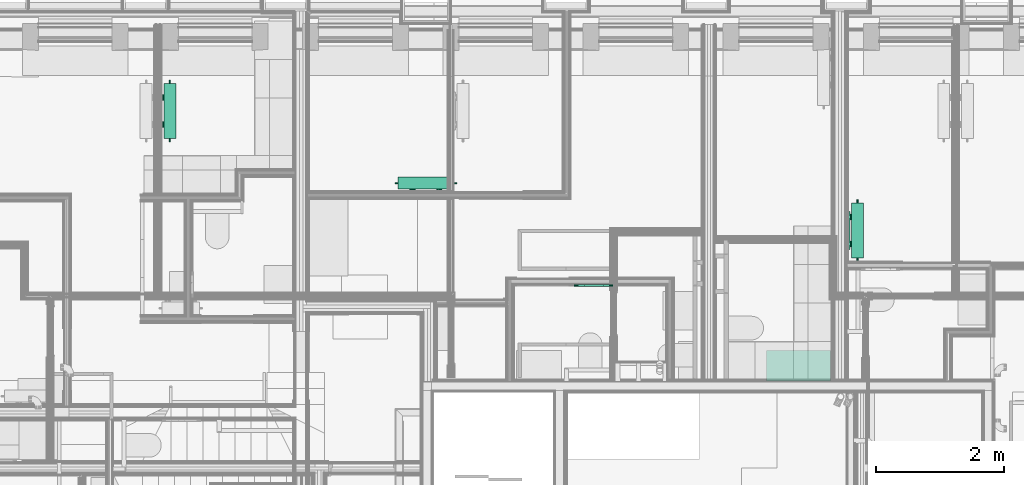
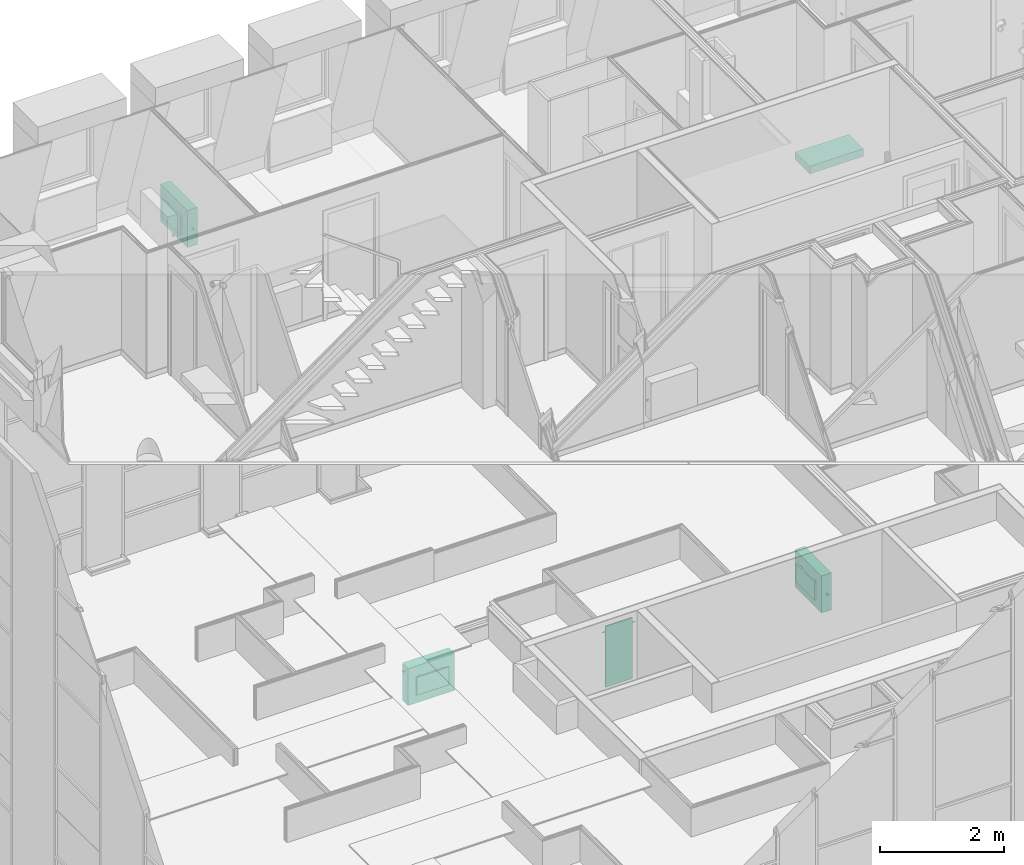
# One storey, part 148 of 169: 5 flow terminals.
"""IFC2X3 building model written with IfcOpenShell, lengths in metres."""

from ifc_helpers import new_model, entity, si_unit, converted_unit, derived_unit, money_unit, direction, frame, origin_with_axes, place, context, subcontext, project, spatial, open_shell, faceted_brep, surface_model, material, type_object, element, save


model = new_model("IFC2X3")

# Units and contexts
model_context = context("Model", 3, precision=1e-05, world=origin_with_axes(), true_north=direction((0.0, 1.0)))
body_context = subcontext(model_context, "Body", "Model", "MODEL_VIEW", scale=1.0)
ifc_project = project(units=[si_unit("LENGTHUNIT", "METRE"), si_unit("AREAUNIT", "SQUARE_METRE"), si_unit("VOLUMEUNIT", "CUBIC_METRE"), si_unit("ABSORBEDDOSEUNIT", "GRAY"), si_unit("AMOUNTOFSUBSTANCEUNIT", "MOLE"), si_unit("DOSEEQUIVALENTUNIT", "SIEVERT"), si_unit("ELECTRICCAPACITANCEUNIT", "FARAD"), si_unit("ELECTRICCHARGEUNIT", "COULOMB"), si_unit("ELECTRICCONDUCTANCEUNIT", "SIEMENS"), si_unit("ELECTRICCURRENTUNIT", "AMPERE"), si_unit("ELECTRICRESISTANCEUNIT", "OHM"), si_unit("ELECTRICVOLTAGEUNIT", "VOLT"), si_unit("ENERGYUNIT", "JOULE"), si_unit("FORCEUNIT", "NEWTON"), si_unit("FREQUENCYUNIT", "HERTZ"), si_unit("ILLUMINANCEUNIT", "LUX"), si_unit("INDUCTANCEUNIT", "HENRY"), si_unit("LUMINOUSFLUXUNIT", "LUMEN"), si_unit("LUMINOUSINTENSITYUNIT", "CANDELA"), si_unit("MAGNETICFLUXDENSITYUNIT", "TESLA"), si_unit("MAGNETICFLUXUNIT", "WEBER"), si_unit("MASSUNIT", "GRAM"), converted_unit("PLANEANGLEUNIT", "degree", entity("IfcReal", 0.0174532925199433), si_unit("PLANEANGLEUNIT", "RADIAN"), dimensions=[0, 0, 0, 0, 0, 0, 0]), si_unit("POWERUNIT", "WATT"), si_unit("PRESSUREUNIT", "PASCAL"), si_unit("RADIOACTIVITYUNIT", "BECQUEREL"), si_unit("SOLIDANGLEUNIT", "STERADIAN"), si_unit("THERMODYNAMICTEMPERATUREUNIT", "KELVIN"), si_unit("TIMEUNIT", "SECOND"), derived_unit("ACCELERATIONUNIT", [(si_unit("LENGTHUNIT", "METRE"), 1), (si_unit("TIMEUNIT", "SECOND"), -2)]), derived_unit("ANGULARVELOCITYUNIT", [(converted_unit("PLANEANGLEUNIT", "degree", entity("IfcReal", 0.0174532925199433), si_unit("PLANEANGLEUNIT", "RADIAN"), dimensions=[0, 0, 0, 0, 0, 0, 0]), 1), (si_unit("TIMEUNIT", "SECOND"), -1)]), derived_unit("CURVATUREUNIT", [(converted_unit("PLANEANGLEUNIT", "degree", entity("IfcReal", 0.0174532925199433), si_unit("PLANEANGLEUNIT", "RADIAN"), dimensions=[0, 0, 0, 0, 0, 0, 0]), 1), (si_unit("LENGTHUNIT", "METRE"), -1)]), derived_unit("DYNAMICVISCOSITYUNIT", [(si_unit("PRESSUREUNIT", "PASCAL"), 1), (si_unit("TIMEUNIT", "SECOND"), 1)]), derived_unit("HEATFLUXDENSITYUNIT", [(si_unit("POWERUNIT", "WATT"), 1), (si_unit("LENGTHUNIT", "METRE"), -2)]), derived_unit("HEATINGVALUEUNIT", [(si_unit("ENERGYUNIT", "JOULE"), 1), (si_unit("MASSUNIT", "GRAM"), -1)]), derived_unit("INTEGERCOUNTRATEUNIT", [(si_unit("TIMEUNIT", "SECOND"), -1)]), derived_unit("IONCONCENTRATIONUNIT", [(si_unit("MASSUNIT", "GRAM"), 1), (si_unit("VOLUMEUNIT", "CUBIC_METRE"), -1)]), derived_unit("ISOTHERMALMOISTURECAPACITYUNIT", [(si_unit("VOLUMEUNIT", "CUBIC_METRE"), 1), (si_unit("MASSUNIT", "GRAM"), -1)]), derived_unit("KINEMATICVISCOSITYUNIT", [(si_unit("AREAUNIT", "SQUARE_METRE"), 1), (si_unit("TIMEUNIT", "SECOND"), -1)]), derived_unit("LINEARFORCEUNIT", [(si_unit("FORCEUNIT", "NEWTON"), 1), (si_unit("LENGTHUNIT", "METRE"), -1)]), derived_unit("LINEARMOMENTUNIT", [(si_unit("FORCEUNIT", "NEWTON"), 1), (si_unit("LENGTHUNIT", "METRE"), -1)]), derived_unit("LINEARSTIFFNESSUNIT", [(si_unit("FORCEUNIT", "NEWTON"), 1), (si_unit("LENGTHUNIT", "METRE"), -1)]), derived_unit("LINEARVELOCITYUNIT", [(si_unit("LENGTHUNIT", "METRE"), 1), (si_unit("TIMEUNIT", "SECOND"), -1)]), derived_unit("LUMINOUSINTENSITYDISTRIBUTIONUNIT", [(si_unit("LUMINOUSINTENSITYUNIT", "CANDELA"), 1), (si_unit("LUMINOUSFLUXUNIT", "LUMEN"), -1)]), derived_unit("MASSDENSITYUNIT", [(si_unit("MASSUNIT", "GRAM"), 1), (si_unit("VOLUMEUNIT", "CUBIC_METRE"), -1)]), derived_unit("MASSFLOWRATEUNIT", [(si_unit("MASSUNIT", "GRAM"), 1), (si_unit("TIMEUNIT", "SECOND"), -1)]), derived_unit("MASSPERLENGTHUNIT", [(si_unit("MASSUNIT", "GRAM"), 1), (si_unit("LENGTHUNIT", "METRE"), -1)]), derived_unit("MODULUSOFELASTICITYUNIT", [(si_unit("FORCEUNIT", "NEWTON"), 1), (si_unit("AREAUNIT", "SQUARE_METRE"), -1)]), derived_unit("MODULUSOFLINEARSUBGRADEREACTIONUNIT", [(si_unit("FORCEUNIT", "NEWTON"), 1), (si_unit("LENGTHUNIT", "METRE"), -2)]), derived_unit("MODULUSOFROTATIONALSUBGRADEREACTIONUNIT", [(si_unit("FORCEUNIT", "NEWTON"), 1), (si_unit("LENGTHUNIT", "METRE"), 1)]), derived_unit("MODULUSOFSUBGRADEREACTIONUNIT", [(si_unit("FORCEUNIT", "NEWTON"), 1), (si_unit("VOLUMEUNIT", "CUBIC_METRE"), -1)]), derived_unit("MOISTUREDIFFUSIVITYUNIT", [(si_unit("VOLUMEUNIT", "CUBIC_METRE"), 1), (si_unit("TIMEUNIT", "SECOND"), -1)]), derived_unit("MOLECULARWEIGHTUNIT", [(si_unit("MASSUNIT", "GRAM"), 1), (si_unit("AMOUNTOFSUBSTANCEUNIT", "MOLE"), -1)]), derived_unit("PLANARFORCEUNIT", [(si_unit("FORCEUNIT", "NEWTON"), 1), (si_unit("LENGTHUNIT", "METRE"), -2)]), derived_unit("ROTATIONALFREQUENCYUNIT", [(si_unit("TIMEUNIT", "SECOND"), -1)]), derived_unit("ROTATIONALMASSUNIT", [(si_unit("MASSUNIT", "GRAM"), 1), (si_unit("LENGTHUNIT", "METRE"), 2)]), derived_unit("ROTATIONALSTIFFNESSUNIT", [(si_unit("FORCEUNIT", "NEWTON"), 1), (si_unit("LENGTHUNIT", "METRE"), 1), (converted_unit("PLANEANGLEUNIT", "degree", entity("IfcReal", 0.0174532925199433), si_unit("PLANEANGLEUNIT", "RADIAN"), dimensions=[0, 0, 0, 0, 0, 0, 0]), -1)]), derived_unit("SECTIONAREAINTEGRALUNIT", [(si_unit("LENGTHUNIT", "METRE"), 5)]), derived_unit("SECTIONMODULUSUNIT", [(si_unit("LENGTHUNIT", "METRE"), 3)]), derived_unit("SHEARMODULUSUNIT", [(si_unit("FORCEUNIT", "NEWTON"), 1), (si_unit("AREAUNIT", "SQUARE_METRE"), -1)]), derived_unit("SOUNDPOWERUNIT", [(si_unit("ENERGYUNIT", "JOULE"), 1), (si_unit("TIMEUNIT", "SECOND"), -1)]), derived_unit("SPECIFICHEATCAPACITYUNIT", [(si_unit("FORCEUNIT", "NEWTON"), 1), (si_unit("MASSUNIT", "GRAM"), -1), (si_unit("THERMODYNAMICTEMPERATUREUNIT", "KELVIN"), -1)]), derived_unit("TEMPERATUREGRADIENTUNIT", [(si_unit("THERMODYNAMICTEMPERATUREUNIT", "KELVIN"), 1), (si_unit("LENGTHUNIT", "METRE"), -1)]), derived_unit("THERMALADMITTANCEUNIT", [(si_unit("POWERUNIT", "WATT"), 1), (si_unit("AREAUNIT", "SQUARE_METRE"), -1), (si_unit("THERMODYNAMICTEMPERATUREUNIT", "KELVIN"), -1)]), derived_unit("THERMALCONDUCTANCEUNIT", [(si_unit("POWERUNIT", "WATT"), 1), (si_unit("LENGTHUNIT", "METRE"), -1), (si_unit("THERMODYNAMICTEMPERATUREUNIT", "KELVIN"), -1)]), derived_unit("THERMALEXPANSIONCOEFFICIENTUNIT", [(si_unit("THERMODYNAMICTEMPERATUREUNIT", "KELVIN"), -1)]), derived_unit("THERMALRESISTANCEUNIT", [(si_unit("AREAUNIT", "SQUARE_METRE"), 1), (si_unit("POWERUNIT", "WATT"), -1)]), derived_unit("THERMALTRANSMITTANCEUNIT", [(si_unit("POWERUNIT", "WATT"), 1), (si_unit("AREAUNIT", "SQUARE_METRE"), -1), (si_unit("THERMODYNAMICTEMPERATUREUNIT", "KELVIN"), -1)]), derived_unit("TORQUEUNIT", [(si_unit("FORCEUNIT", "NEWTON"), 1), (si_unit("LENGTHUNIT", "METRE"), 1)]), derived_unit("VAPORPERMEABILITYUNIT", [(si_unit("MASSUNIT", "GRAM"), 1), (si_unit("TIMEUNIT", "SECOND"), -1)]), derived_unit("VOLUMETRICFLOWRATEUNIT", [(si_unit("VOLUMEUNIT", "CUBIC_METRE"), 1), (si_unit("TIMEUNIT", "SECOND"), -1)]), derived_unit("WARPINGCONSTANTUNIT", [(si_unit("LENGTHUNIT", "METRE"), 6)]), derived_unit("WARPINGMOMENTUNIT", [(si_unit("FORCEUNIT", "NEWTON"), 1), (si_unit("LENGTHUNIT", "METRE"), 2)]), money_unit("GBP")], contexts=[model_context])

# Site, building, storey, space
site_placement = place(None, origin_with_axes())
site = spatial("IfcSite", under=ifc_project, at=site_placement, Name="Site", CompositionType="ELEMENT")
building_placement = place(site_placement, origin_with_axes())
building = spatial("IfcBuilding", under=site, at=building_placement, Name="Building01", CompositionType="ELEMENT")
storey_placement = place(building_placement, frame((0.0, 0.0, 5.15), z_axis=(0.0, 0.0, 1.0), x_axis=(1.0, 0.0, 0.0)))
storey = spatial("IfcBuildingStorey", under=building, at=storey_placement, Name="1F", CompositionType="ELEMENT", Elevation=5.15)
space_1_placement = place(storey_placement, frame((15.83, 8.82, 0.017975), z_axis=(0.0, 0.0, 1.0), x_axis=(0.0, -1.0, 0.0)))
space_1 = spatial("IfcSpace", under=storey, at=space_1_placement, Name="02", CompositionType="ELEMENT", InteriorOrExteriorSpace="NOTDEFINED")

# Flow terminal
ifc_material = material(Name="M_BSUK_Ventilation")
space_heater_type_1 = type_object("IfcSpaceHeaterType", Name="M-BmvRadiatorpanel-Panel", PredefinedType="NOTDEFINED")
flow_terminal_1_placement = place(storey_placement, frame((15.868382, 10.735286, 0.665), z_axis=(0.0, 0.0, 1.0), x_axis=(0.0, 1.0, 0.0)))
element("IfcFlowTerminal", 1, at=flow_terminal_1_placement, inside=space_1, type_object=space_heater_type_1, material=ifc_material, Name="M-BmvRadiatorpanel-Panel", ObjectType="M-BmvRadiatorpanel-Panel", context=body_context, shape_type="SurfaceModel", body=[
    surface_model("IfcShellBasedSurfaceModel", [(0.865, -0.0925, 0.365), (0.865, 0.0925, 0.365), (0.0, 0.0925, 0.365), (0.0, -0.0925, 0.365), (0.865, -0.0925, -0.365), (0.865, 0.0925, -0.365), (0.0, -0.0925, -0.365), (0.0, 0.0925, -0.365), (0.1325, 0.12025, 0.175), (0.7325, 0.12025, 0.175), (0.7325, 0.14525, 0.175), (0.1325, 0.14525, 0.175), (0.7325, 0.14525, -0.175), (0.1325, 0.14525, -0.175), (0.7325, 0.12025, -0.175), (0.1325, 0.12025, -0.175), (0.2225, 0.0925, 0.0775), (0.2225, 0.12025, 0.0775), (0.239721, 0.12025, 0.080925), (0.239721, 0.0925, 0.080925), (0.25432, 0.12025, 0.09068), (0.25432, 0.0925, 0.09068), (0.264075, 0.12025, 0.105279), (0.264075, 0.0925, 0.105279), (0.2675, 0.12025, 0.1225), (0.2675, 0.0925, 0.1225), (0.264075, 0.12025, 0.139721), (0.264075, 0.0925, 0.139721), (0.25432, 0.12025, 0.15432), (0.25432, 0.0925, 0.15432), (0.239721, 0.12025, 0.164075), (0.239721, 0.0925, 0.164075), (0.2225, 0.12025, 0.1675), (0.2225, 0.0925, 0.1675), (0.205279, 0.12025, 0.164075), (0.205279, 0.0925, 0.164075), (0.19068, 0.12025, 0.15432), (0.19068, 0.0925, 0.15432), (0.180925, 0.12025, 0.139721), (0.180925, 0.0925, 0.139721), (0.1775, 0.12025, 0.1225), (0.1775, 0.0925, 0.1225), (0.180925, 0.12025, 0.105279), (0.180925, 0.0925, 0.105279), (0.19068, 0.12025, 0.09068), (0.19068, 0.0925, 0.09068), (0.205279, 0.12025, 0.080925), (0.205279, 0.0925, 0.080925), (0.6425, 0.0925, 0.0775), (0.6425, 0.12025, 0.0775), (0.659721, 0.12025, 0.080925), (0.659721, 0.0925, 0.080925), (0.67432, 0.12025, 0.09068), (0.67432, 0.0925, 0.09068), (0.684075, 0.12025, 0.105279), (0.684075, 0.0925, 0.105279), (0.6875, 0.12025, 0.1225), (0.6875, 0.0925, 0.1225), (0.684075, 0.12025, 0.139721), (0.684075, 0.0925, 0.139721), (0.67432, 0.12025, 0.15432), (0.67432, 0.0925, 0.15432), (0.659721, 0.12025, 0.164075), (0.659721, 0.0925, 0.164075), (0.6425, 0.12025, 0.1675), (0.6425, 0.0925, 0.1675), (0.625279, 0.12025, 0.164075), (0.625279, 0.0925, 0.164075), (0.61068, 0.12025, 0.15432), (0.61068, 0.0925, 0.15432), (0.600925, 0.12025, 0.139721), (0.600925, 0.0925, 0.139721), (0.5975, 0.12025, 0.1225), (0.5975, 0.0925, 0.1225), (0.600925, 0.12025, 0.105279), (0.600925, 0.0925, 0.105279), (0.61068, 0.12025, 0.09068), (0.61068, 0.0925, 0.09068), (0.625279, 0.12025, 0.080925), (0.625279, 0.0925, 0.080925), (-0.05, 0.0, -0.0225), (0.0, 0.0, -0.0225), (0.0, -0.004784, -0.021548), (-0.05, -0.004784, -0.021548), (0.0, -0.008839, -0.018839), (-0.05, -0.008839, -0.018839), (0.0, -0.011548, -0.014784), (-0.05, -0.011548, -0.014784), (0.0, -0.0125, -0.01), (-0.05, -0.0125, -0.01), (0.0, -0.011548, -0.005216), (-0.05, -0.011548, -0.005216), (0.0, -0.008839, -0.001161), (-0.05, -0.008839, -0.001161), (0.0, -0.004784, 0.001548), (-0.05, -0.004784, 0.001548), (0.0, 0.0, 0.0025), (-0.05, 0.0, 0.0025), (0.0, 0.004784, 0.001548), (-0.05, 0.004784, 0.001548), (0.0, 0.008839, -0.001161), (-0.05, 0.008839, -0.001161), (0.0, 0.011548, -0.005216), (-0.05, 0.011548, -0.005216), (0.0, 0.0125, -0.01), (-0.05, 0.0125, -0.01), (0.0, 0.011548, -0.014784), (-0.05, 0.011548, -0.014784), (0.0, 0.008839, -0.018839), (-0.05, 0.008839, -0.018839), (0.0, 0.004784, -0.021548), (-0.05, 0.004784, -0.021548), (0.915, 0.0, 0.2525), (0.865, 0.0, 0.2525), (0.865, 0.004784, 0.253452), (0.915, 0.004784, 0.253452), (0.865, 0.008839, 0.256161), (0.915, 0.008839, 0.256161), (0.865, 0.011548, 0.260216), (0.915, 0.011548, 0.260216), (0.865, 0.0125, 0.265), (0.915, 0.0125, 0.265), (0.865, 0.011548, 0.269784), (0.915, 0.011548, 0.269784), (0.865, 0.008839, 0.273839), (0.915, 0.008839, 0.273839), (0.865, 0.004784, 0.276548), (0.915, 0.004784, 0.276548), (0.865, 0.0, 0.2775), (0.915, 0.0, 0.2775), (0.865, -0.004784, 0.276548), (0.915, -0.004784, 0.276548), (0.865, -0.008839, 0.273839), (0.915, -0.008839, 0.273839), (0.865, -0.011548, 0.269784), (0.915, -0.011548, 0.269784), (0.865, -0.0125, 0.265), (0.915, -0.0125, 0.265), (0.865, -0.011548, 0.260216), (0.915, -0.011548, 0.260216), (0.865, -0.008839, 0.256161), (0.915, -0.008839, 0.256161), (0.865, -0.004784, 0.253452), (0.915, -0.004784, 0.253452)], [open_shell([[[0, 1, 2, 3]], [[4, 5, 1, 0]], [[6, 7, 5, 4]], [[3, 2, 7, 6]], [[1, 5, 7, 2]], [[3, 6, 4, 0]], [[8, 9, 10, 11]], [[11, 10, 12, 13]], [[13, 12, 14, 15]], [[15, 14, 9, 8]], [[9, 14, 12, 10]], [[11, 13, 15, 8]], [[16, 17, 18, 19]], [[19, 18, 20, 21]], [[21, 20, 22, 23]], [[23, 22, 24, 25]], [[25, 24, 26, 27]], [[27, 26, 28, 29]], [[29, 28, 30, 31]], [[31, 30, 32, 33]], [[33, 32, 34, 35]], [[35, 34, 36, 37]], [[37, 36, 38, 39]], [[39, 38, 40, 41]], [[41, 40, 42, 43]], [[43, 42, 44, 45]], [[45, 44, 46, 47]], [[47, 46, 17, 16]], [[48, 49, 50, 51]], [[51, 50, 52, 53]], [[53, 52, 54, 55]], [[55, 54, 56, 57]], [[57, 56, 58, 59]], [[59, 58, 60, 61]], [[61, 60, 62, 63]], [[63, 62, 64, 65]], [[65, 64, 66, 67]], [[67, 66, 68, 69]], [[69, 68, 70, 71]], [[71, 70, 72, 73]], [[73, 72, 74, 75]], [[75, 74, 76, 77]], [[77, 76, 78, 79]], [[79, 78, 49, 48]], [[80, 81, 82, 83]], [[83, 82, 84, 85]], [[85, 84, 86, 87]], [[87, 86, 88, 89]], [[89, 88, 90, 91]], [[91, 90, 92, 93]], [[93, 92, 94, 95]], [[95, 94, 96, 97]], [[97, 96, 98, 99]], [[99, 98, 100, 101]], [[101, 100, 102, 103]], [[103, 102, 104, 105]], [[105, 104, 106, 107]], [[107, 106, 108, 109]], [[109, 108, 110, 111]], [[111, 110, 81, 80]], [[112, 113, 114, 115]], [[115, 114, 116, 117]], [[117, 116, 118, 119]], [[119, 118, 120, 121]], [[121, 120, 122, 123]], [[123, 122, 124, 125]], [[125, 124, 126, 127]], [[127, 126, 128, 129]], [[129, 128, 130, 131]], [[131, 130, 132, 133]], [[133, 132, 134, 135]], [[135, 134, 136, 137]], [[137, 136, 138, 139]], [[139, 138, 140, 141]], [[141, 140, 142, 143]], [[143, 142, 113, 112]]])]),
])

# Space
space_2_placement = place(storey_placement, frame((7.289669, 14.582, 0.017975), z_axis=(0.0, 0.0, 1.0), x_axis=(0.0, -1.0, 0.0)))
space_2 = spatial("IfcSpace", under=storey, at=space_2_placement, Name="08", CompositionType="ELEMENT", InteriorOrExteriorSpace="NOTDEFINED")

# Flow terminal
flow_terminal_2_placement = place(storey_placement, frame((9.5575, 11.908374, 0.665), z_axis=(0.0, 0.0, 1.0), x_axis=(-1.0, 0.0, 0.0)))
element("IfcFlowTerminal", 2, at=flow_terminal_2_placement, inside=space_2, type_object=space_heater_type_1, material=ifc_material, Name="M-BmvRadiatorpanel-Panel", ObjectType="M-BmvRadiatorpanel-Panel", context=body_context, shape_type="SurfaceModel", body=[
    surface_model("IfcShellBasedSurfaceModel", [(0.865, -0.0925, 0.365), (0.865, 0.0925, 0.365), (0.0, 0.0925, 0.365), (0.0, -0.0925, 0.365), (0.865, -0.0925, -0.365), (0.865, 0.0925, -0.365), (0.0, -0.0925, -0.365), (0.0, 0.0925, -0.365), (0.1325, 0.12025, 0.175), (0.7325, 0.12025, 0.175), (0.7325, 0.14525, 0.175), (0.1325, 0.14525, 0.175), (0.7325, 0.14525, -0.175), (0.1325, 0.14525, -0.175), (0.7325, 0.12025, -0.175), (0.1325, 0.12025, -0.175), (0.2225, 0.0925, 0.0775), (0.2225, 0.12025, 0.0775), (0.239721, 0.12025, 0.080925), (0.239721, 0.0925, 0.080925), (0.25432, 0.12025, 0.09068), (0.25432, 0.0925, 0.09068), (0.264075, 0.12025, 0.105279), (0.264075, 0.0925, 0.105279), (0.2675, 0.12025, 0.1225), (0.2675, 0.0925, 0.1225), (0.264075, 0.12025, 0.139721), (0.264075, 0.0925, 0.139721), (0.25432, 0.12025, 0.15432), (0.25432, 0.0925, 0.15432), (0.239721, 0.12025, 0.164075), (0.239721, 0.0925, 0.164075), (0.2225, 0.12025, 0.1675), (0.2225, 0.0925, 0.1675), (0.205279, 0.12025, 0.164075), (0.205279, 0.0925, 0.164075), (0.19068, 0.12025, 0.15432), (0.19068, 0.0925, 0.15432), (0.180925, 0.12025, 0.139721), (0.180925, 0.0925, 0.139721), (0.1775, 0.12025, 0.1225), (0.1775, 0.0925, 0.1225), (0.180925, 0.12025, 0.105279), (0.180925, 0.0925, 0.105279), (0.19068, 0.12025, 0.09068), (0.19068, 0.0925, 0.09068), (0.205279, 0.12025, 0.080925), (0.205279, 0.0925, 0.080925), (0.6425, 0.0925, 0.0775), (0.6425, 0.12025, 0.0775), (0.659721, 0.12025, 0.080925), (0.659721, 0.0925, 0.080925), (0.67432, 0.12025, 0.09068), (0.67432, 0.0925, 0.09068), (0.684075, 0.12025, 0.105279), (0.684075, 0.0925, 0.105279), (0.6875, 0.12025, 0.1225), (0.6875, 0.0925, 0.1225), (0.684075, 0.12025, 0.139721), (0.684075, 0.0925, 0.139721), (0.67432, 0.12025, 0.15432), (0.67432, 0.0925, 0.15432), (0.659721, 0.12025, 0.164075), (0.659721, 0.0925, 0.164075), (0.6425, 0.12025, 0.1675), (0.6425, 0.0925, 0.1675), (0.625279, 0.12025, 0.164075), (0.625279, 0.0925, 0.164075), (0.61068, 0.12025, 0.15432), (0.61068, 0.0925, 0.15432), (0.600925, 0.12025, 0.139721), (0.600925, 0.0925, 0.139721), (0.5975, 0.12025, 0.1225), (0.5975, 0.0925, 0.1225), (0.600925, 0.12025, 0.105279), (0.600925, 0.0925, 0.105279), (0.61068, 0.12025, 0.09068), (0.61068, 0.0925, 0.09068), (0.625279, 0.12025, 0.080925), (0.625279, 0.0925, 0.080925), (-0.05, 0.0, -0.0225), (0.0, 0.0, -0.0225), (0.0, -0.004784, -0.021548), (-0.05, -0.004784, -0.021548), (0.0, -0.008839, -0.018839), (-0.05, -0.008839, -0.018839), (0.0, -0.011548, -0.014784), (-0.05, -0.011548, -0.014784), (0.0, -0.0125, -0.01), (-0.05, -0.0125, -0.01), (0.0, -0.011548, -0.005216), (-0.05, -0.011548, -0.005216), (0.0, -0.008839, -0.001161), (-0.05, -0.008839, -0.001161), (0.0, -0.004784, 0.001548), (-0.05, -0.004784, 0.001548), (0.0, 0.0, 0.0025), (-0.05, 0.0, 0.0025), (0.0, 0.004784, 0.001548), (-0.05, 0.004784, 0.001548), (0.0, 0.008839, -0.001161), (-0.05, 0.008839, -0.001161), (0.0, 0.011548, -0.005216), (-0.05, 0.011548, -0.005216), (0.0, 0.0125, -0.01), (-0.05, 0.0125, -0.01), (0.0, 0.011548, -0.014784), (-0.05, 0.011548, -0.014784), (0.0, 0.008839, -0.018839), (-0.05, 0.008839, -0.018839), (0.0, 0.004784, -0.021548), (-0.05, 0.004784, -0.021548), (0.915, 0.0, 0.2525), (0.865, 0.0, 0.2525), (0.865, 0.004784, 0.253452), (0.915, 0.004784, 0.253452), (0.865, 0.008839, 0.256161), (0.915, 0.008839, 0.256161), (0.865, 0.011548, 0.260216), (0.915, 0.011548, 0.260216), (0.865, 0.0125, 0.265), (0.915, 0.0125, 0.265), (0.865, 0.011548, 0.269784), (0.915, 0.011548, 0.269784), (0.865, 0.008839, 0.273839), (0.915, 0.008839, 0.273839), (0.865, 0.004784, 0.276548), (0.915, 0.004784, 0.276548), (0.865, 0.0, 0.2775), (0.915, 0.0, 0.2775), (0.865, -0.004784, 0.276548), (0.915, -0.004784, 0.276548), (0.865, -0.008839, 0.273839), (0.915, -0.008839, 0.273839), (0.865, -0.011548, 0.269784), (0.915, -0.011548, 0.269784), (0.865, -0.0125, 0.265), (0.915, -0.0125, 0.265), (0.865, -0.011548, 0.260216), (0.915, -0.011548, 0.260216), (0.865, -0.008839, 0.256161), (0.915, -0.008839, 0.256161), (0.865, -0.004784, 0.253452), (0.915, -0.004784, 0.253452)], [open_shell([[[0, 1, 2, 3]], [[4, 5, 1, 0]], [[6, 7, 5, 4]], [[3, 2, 7, 6]], [[1, 5, 7, 2]], [[3, 6, 4, 0]], [[8, 9, 10, 11]], [[11, 10, 12, 13]], [[13, 12, 14, 15]], [[15, 14, 9, 8]], [[9, 14, 12, 10]], [[11, 13, 15, 8]], [[16, 17, 18, 19]], [[19, 18, 20, 21]], [[21, 20, 22, 23]], [[23, 22, 24, 25]], [[25, 24, 26, 27]], [[27, 26, 28, 29]], [[29, 28, 30, 31]], [[31, 30, 32, 33]], [[33, 32, 34, 35]], [[35, 34, 36, 37]], [[37, 36, 38, 39]], [[39, 38, 40, 41]], [[41, 40, 42, 43]], [[43, 42, 44, 45]], [[45, 44, 46, 47]], [[47, 46, 17, 16]], [[48, 49, 50, 51]], [[51, 50, 52, 53]], [[53, 52, 54, 55]], [[55, 54, 56, 57]], [[57, 56, 58, 59]], [[59, 58, 60, 61]], [[61, 60, 62, 63]], [[63, 62, 64, 65]], [[65, 64, 66, 67]], [[67, 66, 68, 69]], [[69, 68, 70, 71]], [[71, 70, 72, 73]], [[73, 72, 74, 75]], [[75, 74, 76, 77]], [[77, 76, 78, 79]], [[79, 78, 49, 48]], [[80, 81, 82, 83]], [[83, 82, 84, 85]], [[85, 84, 86, 87]], [[87, 86, 88, 89]], [[89, 88, 90, 91]], [[91, 90, 92, 93]], [[93, 92, 94, 95]], [[95, 94, 96, 97]], [[97, 96, 98, 99]], [[99, 98, 100, 101]], [[101, 100, 102, 103]], [[103, 102, 104, 105]], [[105, 104, 106, 107]], [[107, 106, 108, 109]], [[109, 108, 110, 111]], [[111, 110, 81, 80]], [[112, 113, 114, 115]], [[115, 114, 116, 117]], [[117, 116, 118, 119]], [[119, 118, 120, 121]], [[121, 120, 122, 123]], [[123, 122, 124, 125]], [[125, 124, 126, 127]], [[127, 126, 128, 129]], [[129, 128, 130, 131]], [[131, 130, 132, 133]], [[133, 132, 134, 135]], [[135, 134, 136, 137]], [[137, 136, 138, 139]], [[139, 138, 140, 141]], [[141, 140, 142, 143]], [[143, 142, 113, 112]]])]),
])

# Space
space_3_placement = place(storey_placement, frame((1.009939, 13.890379, 9.86), z_axis=(0.0, 0.0, 1.0), x_axis=(0.0, -1.0, 0.0)))
space_3 = spatial("IfcSpace", under=storey, at=space_3_placement, Name="26", CompositionType="ELEMENT", InteriorOrExteriorSpace="NOTDEFINED")

# Flow terminal
flow_terminal_3_placement = place(storey_placement, frame((5.125274, 12.601764, 10.495), z_axis=(0.0, 0.0, 1.0), x_axis=(0.0, 1.0, 0.0)))
element("IfcFlowTerminal", 3, at=flow_terminal_3_placement, inside=space_3, type_object=space_heater_type_1, material=ifc_material, Name="M-BmvRadiatorpanel-Panel", ObjectType="M-BmvRadiatorpanel-Panel", context=body_context, shape_type="SurfaceModel", body=[
    surface_model("IfcShellBasedSurfaceModel", [(0.865, -0.0925, 0.365), (0.865, 0.0925, 0.365), (0.0, 0.0925, 0.365), (0.0, -0.0925, 0.365), (0.865, -0.0925, -0.365), (0.865, 0.0925, -0.365), (0.0, -0.0925, -0.365), (0.0, 0.0925, -0.365), (0.1325, 0.12025, 0.175), (0.7325, 0.12025, 0.175), (0.7325, 0.14525, 0.175), (0.1325, 0.14525, 0.175), (0.7325, 0.14525, -0.175), (0.1325, 0.14525, -0.175), (0.7325, 0.12025, -0.175), (0.1325, 0.12025, -0.175), (0.2225, 0.0925, 0.0775), (0.2225, 0.12025, 0.0775), (0.239721, 0.12025, 0.080925), (0.239721, 0.0925, 0.080925), (0.25432, 0.12025, 0.09068), (0.25432, 0.0925, 0.09068), (0.264075, 0.12025, 0.105279), (0.264075, 0.0925, 0.105279), (0.2675, 0.12025, 0.1225), (0.2675, 0.0925, 0.1225), (0.264075, 0.12025, 0.139721), (0.264075, 0.0925, 0.139721), (0.25432, 0.12025, 0.15432), (0.25432, 0.0925, 0.15432), (0.239721, 0.12025, 0.164075), (0.239721, 0.0925, 0.164075), (0.2225, 0.12025, 0.1675), (0.2225, 0.0925, 0.1675), (0.205279, 0.12025, 0.164075), (0.205279, 0.0925, 0.164075), (0.19068, 0.12025, 0.15432), (0.19068, 0.0925, 0.15432), (0.180925, 0.12025, 0.139721), (0.180925, 0.0925, 0.139721), (0.1775, 0.12025, 0.1225), (0.1775, 0.0925, 0.1225), (0.180925, 0.12025, 0.105279), (0.180925, 0.0925, 0.105279), (0.19068, 0.12025, 0.09068), (0.19068, 0.0925, 0.09068), (0.205279, 0.12025, 0.080925), (0.205279, 0.0925, 0.080925), (0.6425, 0.0925, 0.0775), (0.6425, 0.12025, 0.0775), (0.659721, 0.12025, 0.080925), (0.659721, 0.0925, 0.080925), (0.67432, 0.12025, 0.09068), (0.67432, 0.0925, 0.09068), (0.684075, 0.12025, 0.105279), (0.684075, 0.0925, 0.105279), (0.6875, 0.12025, 0.1225), (0.6875, 0.0925, 0.1225), (0.684075, 0.12025, 0.139721), (0.684075, 0.0925, 0.139721), (0.67432, 0.12025, 0.15432), (0.67432, 0.0925, 0.15432), (0.659721, 0.12025, 0.164075), (0.659721, 0.0925, 0.164075), (0.6425, 0.12025, 0.1675), (0.6425, 0.0925, 0.1675), (0.625279, 0.12025, 0.164075), (0.625279, 0.0925, 0.164075), (0.61068, 0.12025, 0.15432), (0.61068, 0.0925, 0.15432), (0.600925, 0.12025, 0.139721), (0.600925, 0.0925, 0.139721), (0.5975, 0.12025, 0.1225), (0.5975, 0.0925, 0.1225), (0.600925, 0.12025, 0.105279), (0.600925, 0.0925, 0.105279), (0.61068, 0.12025, 0.09068), (0.61068, 0.0925, 0.09068), (0.625279, 0.12025, 0.080925), (0.625279, 0.0925, 0.080925), (-0.05, 0.0, -0.0225), (0.0, 0.0, -0.0225), (0.0, -0.004784, -0.021548), (-0.05, -0.004784, -0.021548), (0.0, -0.008839, -0.018839), (-0.05, -0.008839, -0.018839), (0.0, -0.011548, -0.014784), (-0.05, -0.011548, -0.014784), (0.0, -0.0125, -0.01), (-0.05, -0.0125, -0.01), (0.0, -0.011548, -0.005216), (-0.05, -0.011548, -0.005216), (0.0, -0.008839, -0.001161), (-0.05, -0.008839, -0.001161), (0.0, -0.004784, 0.001548), (-0.05, -0.004784, 0.001548), (0.0, 0.0, 0.0025), (-0.05, 0.0, 0.0025), (0.0, 0.004784, 0.001548), (-0.05, 0.004784, 0.001548), (0.0, 0.008839, -0.001161), (-0.05, 0.008839, -0.001161), (0.0, 0.011548, -0.005216), (-0.05, 0.011548, -0.005216), (0.0, 0.0125, -0.01), (-0.05, 0.0125, -0.01), (0.0, 0.011548, -0.014784), (-0.05, 0.011548, -0.014784), (0.0, 0.008839, -0.018839), (-0.05, 0.008839, -0.018839), (0.0, 0.004784, -0.021548), (-0.05, 0.004784, -0.021548), (0.915, 0.0, 0.2525), (0.865, 0.0, 0.2525), (0.865, 0.004784, 0.253452), (0.915, 0.004784, 0.253452), (0.865, 0.008839, 0.256161), (0.915, 0.008839, 0.256161), (0.865, 0.011548, 0.260216), (0.915, 0.011548, 0.260216), (0.865, 0.0125, 0.265), (0.915, 0.0125, 0.265), (0.865, 0.011548, 0.269784), (0.915, 0.011548, 0.269784), (0.865, 0.008839, 0.273839), (0.915, 0.008839, 0.273839), (0.865, 0.004784, 0.276548), (0.915, 0.004784, 0.276548), (0.865, 0.0, 0.2775), (0.915, 0.0, 0.2775), (0.865, -0.004784, 0.276548), (0.915, -0.004784, 0.276548), (0.865, -0.008839, 0.273839), (0.915, -0.008839, 0.273839), (0.865, -0.011548, 0.269784), (0.915, -0.011548, 0.269784), (0.865, -0.0125, 0.265), (0.915, -0.0125, 0.265), (0.865, -0.011548, 0.260216), (0.915, -0.011548, 0.260216), (0.865, -0.008839, 0.256161), (0.915, -0.008839, 0.256161), (0.865, -0.004784, 0.253452), (0.915, -0.004784, 0.253452)], [open_shell([[[0, 1, 2, 3]], [[4, 5, 1, 0]], [[6, 7, 5, 4]], [[3, 2, 7, 6]], [[1, 5, 7, 2]], [[3, 6, 4, 0]], [[8, 9, 10, 11]], [[11, 10, 12, 13]], [[13, 12, 14, 15]], [[15, 14, 9, 8]], [[9, 14, 12, 10]], [[11, 13, 15, 8]], [[16, 17, 18, 19]], [[19, 18, 20, 21]], [[21, 20, 22, 23]], [[23, 22, 24, 25]], [[25, 24, 26, 27]], [[27, 26, 28, 29]], [[29, 28, 30, 31]], [[31, 30, 32, 33]], [[33, 32, 34, 35]], [[35, 34, 36, 37]], [[37, 36, 38, 39]], [[39, 38, 40, 41]], [[41, 40, 42, 43]], [[43, 42, 44, 45]], [[45, 44, 46, 47]], [[47, 46, 17, 16]], [[48, 49, 50, 51]], [[51, 50, 52, 53]], [[53, 52, 54, 55]], [[55, 54, 56, 57]], [[57, 56, 58, 59]], [[59, 58, 60, 61]], [[61, 60, 62, 63]], [[63, 62, 64, 65]], [[65, 64, 66, 67]], [[67, 66, 68, 69]], [[69, 68, 70, 71]], [[71, 70, 72, 73]], [[73, 72, 74, 75]], [[75, 74, 76, 77]], [[77, 76, 78, 79]], [[79, 78, 49, 48]], [[80, 81, 82, 83]], [[83, 82, 84, 85]], [[85, 84, 86, 87]], [[87, 86, 88, 89]], [[89, 88, 90, 91]], [[91, 90, 92, 93]], [[93, 92, 94, 95]], [[95, 94, 96, 97]], [[97, 96, 98, 99]], [[99, 98, 100, 101]], [[101, 100, 102, 103]], [[103, 102, 104, 105]], [[105, 104, 106, 107]], [[107, 106, 108, 109]], [[109, 108, 110, 111]], [[111, 110, 81, 80]], [[112, 113, 114, 115]], [[115, 114, 116, 117]], [[117, 116, 118, 119]], [[119, 118, 120, 121]], [[121, 120, 122, 123]], [[123, 122, 124, 125]], [[125, 124, 126, 127]], [[127, 126, 128, 129]], [[129, 128, 130, 131]], [[131, 130, 132, 133]], [[133, 132, 134, 135]], [[135, 134, 136, 137]], [[137, 136, 138, 139]], [[139, 138, 140, 141]], [[141, 140, 142, 143]], [[143, 142, 113, 112]]])]),
])

# Space
space_4_placement = place(storey_placement, frame((12.893585, 8.82, 0.017975), z_axis=(0.0, 0.0, 1.0), x_axis=(0.0, 1.0, 0.0)))
space_4 = spatial("IfcSpace", under=storey, at=space_4_placement, Name="bath", CompositionType="ELEMENT", InteriorOrExteriorSpace="NOTDEFINED")

# Flow terminal
space_heater_type_2 = type_object("IfcSpaceHeaterType", Name="M-BmvRadiator-Column", PredefinedType="NOTDEFINED")
flow_terminal_4_placement = place(storey_placement, frame((11.495935, 10.3075, 1.2), z_axis=(0.0, 0.0, 1.0), x_axis=(-1.0, 0.0, 0.0)))
element("IfcFlowTerminal", 4, at=flow_terminal_4_placement, inside=space_4, type_object=space_heater_type_2, material=ifc_material, Name="M-BmvRadiator-Column", ObjectType="M-BmvRadiator-Column", context=body_context, shape_type="SurfaceModel", body=[
    surface_model("IfcShellBasedSurfaceModel", [(0.0, -0.0125, 0.6), (0.0, -0.0125, -0.6), (0.0, 0.0125, -0.6), (0.0, 0.0125, 0.6), (-0.5, -0.0125, 0.6), (-0.5, -0.0125, -0.6), (-0.5, 0.0125, -0.6), (-0.5, 0.0125, 0.6), (-0.1, 0.0125, 0.6), (-0.1, -0.0125, 0.6), (-0.1, -0.0125, -0.6), (-0.1, 0.0125, -0.6), (-0.2, 0.0125, 0.6), (-0.2, -0.0125, 0.6), (-0.2, -0.0125, -0.6), (-0.2, 0.0125, -0.6), (-0.3, 0.0125, 0.6), (-0.3, -0.0125, 0.6), (-0.3, -0.0125, -0.6), (-0.3, 0.0125, -0.6), (-0.4, 0.0125, 0.6), (-0.4, -0.0125, 0.6), (-0.4, -0.0125, -0.6), (-0.4, 0.0125, -0.6), (0.05, 0.0, 0.4825), (0.0, 0.0, 0.4825), (0.0, 0.003827, 0.483261), (0.05, 0.003827, 0.483261), (0.0, 0.007071, 0.485429), (0.05, 0.007071, 0.485429), (0.0, 0.009239, 0.488673), (0.05, 0.009239, 0.488673), (0.0, 0.01, 0.4925), (0.05, 0.01, 0.4925), (0.0, 0.009239, 0.496327), (0.05, 0.009239, 0.496327), (0.0, 0.007071, 0.499571), (0.05, 0.007071, 0.499571), (0.0, 0.003827, 0.501739), (0.05, 0.003827, 0.501739), (0.0, 0.0, 0.5025), (0.05, 0.0, 0.5025), (0.0, -0.003827, 0.501739), (0.05, -0.003827, 0.501739), (0.0, -0.007071, 0.499571), (0.05, -0.007071, 0.499571), (0.0, -0.009239, 0.496327), (0.05, -0.009239, 0.496327), (0.0, -0.01, 0.4925), (0.05, -0.01, 0.4925), (0.0, -0.009239, 0.488673), (0.05, -0.009239, 0.488673), (0.0, -0.007071, 0.485429), (0.05, -0.007071, 0.485429), (0.0, -0.003827, 0.483261), (0.05, -0.003827, 0.483261), (-0.55, 0.0, 0.4884), (-0.5, 0.0, 0.4884), (-0.5, -0.003827, 0.489161), (-0.55, -0.003827, 0.489161), (-0.5, -0.007071, 0.491329), (-0.55, -0.007071, 0.491329), (-0.5, -0.009239, 0.494573), (-0.55, -0.009239, 0.494573), (-0.5, -0.01, 0.4984), (-0.55, -0.01, 0.4984), (-0.5, -0.009239, 0.502227), (-0.55, -0.009239, 0.502227), (-0.5, -0.007071, 0.505471), (-0.55, -0.007071, 0.505471), (-0.5, -0.003827, 0.507639), (-0.55, -0.003827, 0.507639), (-0.5, 0.0, 0.5084), (-0.55, 0.0, 0.5084), (-0.5, 0.003827, 0.507639), (-0.55, 0.003827, 0.507639), (-0.5, 0.007071, 0.505471), (-0.55, 0.007071, 0.505471), (-0.5, 0.009239, 0.502227), (-0.55, 0.009239, 0.502227), (-0.5, 0.01, 0.4984), (-0.55, 0.01, 0.4984), (-0.5, 0.009239, 0.494573), (-0.55, 0.009239, 0.494573), (-0.5, 0.007071, 0.491329), (-0.55, 0.007071, 0.491329), (-0.5, 0.003827, 0.489161), (-0.55, 0.003827, 0.489161)], [open_shell([[[0, 1, 2, 3]], [[4, 5, 6, 7]], [[8, 3, 0, 9]], [[9, 0, 1, 10]], [[10, 1, 2, 11]], [[11, 2, 3, 8]], [[12, 8, 9, 13]], [[13, 9, 10, 14]], [[14, 10, 11, 15]], [[15, 11, 8, 12]], [[16, 12, 13, 17]], [[17, 13, 14, 18]], [[18, 14, 15, 19]], [[19, 15, 12, 16]], [[20, 16, 17, 21]], [[21, 17, 18, 22]], [[22, 18, 19, 23]], [[23, 19, 16, 20]], [[7, 20, 21, 4]], [[4, 21, 22, 5]], [[5, 22, 23, 6]], [[6, 23, 20, 7]], [[24, 25, 26, 27]], [[27, 26, 28, 29]], [[29, 28, 30, 31]], [[31, 30, 32, 33]], [[33, 32, 34, 35]], [[35, 34, 36, 37]], [[37, 36, 38, 39]], [[39, 38, 40, 41]], [[41, 40, 42, 43]], [[43, 42, 44, 45]], [[45, 44, 46, 47]], [[47, 46, 48, 49]], [[49, 48, 50, 51]], [[51, 50, 52, 53]], [[53, 52, 54, 55]], [[55, 54, 25, 24]], [[56, 57, 58, 59]], [[59, 58, 60, 61]], [[61, 60, 62, 63]], [[63, 62, 64, 65]], [[65, 64, 66, 67]], [[67, 66, 68, 69]], [[69, 68, 70, 71]], [[71, 70, 72, 73]], [[73, 72, 74, 75]], [[75, 74, 76, 77]], [[77, 76, 78, 79]], [[79, 78, 80, 81]], [[81, 80, 82, 83]], [[83, 82, 84, 85]], [[85, 84, 86, 87]], [[87, 86, 57, 56]]])]),
])

# Space
space_5_placement = place(storey_placement, frame((16.03844, 8.82, 9.86), z_axis=(0.0, 0.0, 1.0), x_axis=(0.0, -1.0, 0.0)))
space_5 = spatial("IfcSpace", under=storey, at=space_5_placement, Name="23", CompositionType="ELEMENT", InteriorOrExteriorSpace="NOTDEFINED")

# Flow terminal
sanitary_terminal_type = type_object("IfcSanitaryTerminalType", Name="SHE_A-Sink_47x100", PredefinedType="NOTDEFINED")
flow_terminal_5_placement = place(storey_placement, frame((14.949998, 9.055, 10.650999), z_axis=(0.0, 0.0, 1.0), x_axis=(0.0, 1.0, 0.0)))
element("IfcFlowTerminal", 5, at=flow_terminal_5_placement, inside=space_5, type_object=sanitary_terminal_type, Name="23", ObjectType="SHE_A-Sink_47x100", context=body_context, shape_type="Brep", body=[
    faceted_brep([(-0.235, 0.5, -0.075), (-0.235, 0.5, 0.075001), (0.235, 0.5, 0.075001), (0.235, 0.5, -0.075), (0.235, -0.5, 0.075001), (0.235, -0.5, -0.075), (-0.235, -0.5, 0.075001), (-0.235, -0.5, -0.075)], [[[0, 1, 2, 3]], [[3, 2, 4, 5]], [[5, 4, 6, 7]], [[7, 6, 1, 0]], [[1, 6, 4, 2]], [[3, 5, 7, 0]]]),
])

save(model, "model.ifc")
